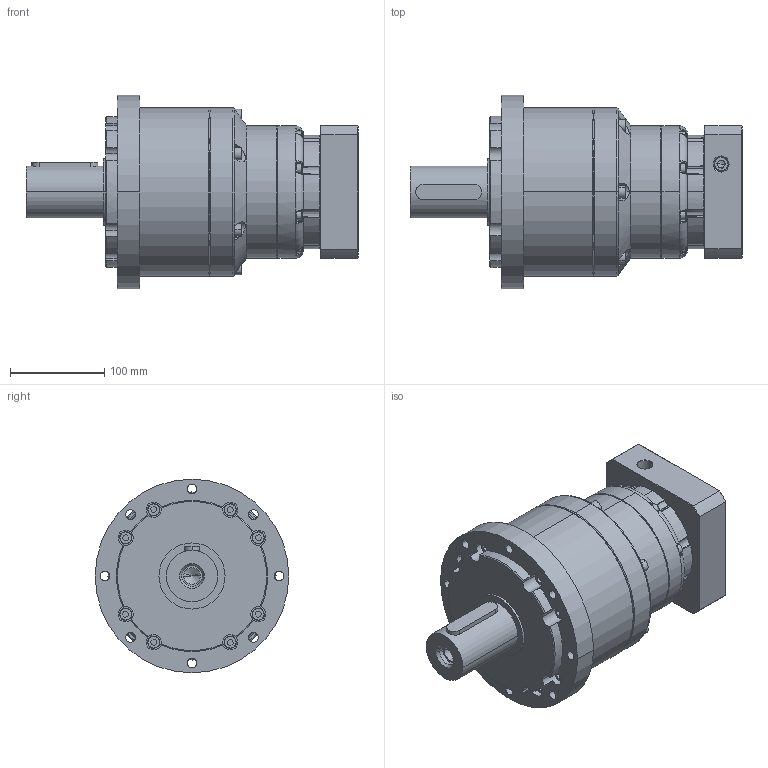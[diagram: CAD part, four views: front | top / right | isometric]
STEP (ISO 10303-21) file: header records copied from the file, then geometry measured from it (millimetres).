
FILE_DESCRIPTION (( 'STEP AP203' ), '1' );
FILE_NAME ('6C6XT.110140.142.STEP', '2019-06-12T00:57:14', ( '' ), ( '' ), 'SwSTEP 2.0', 'SolidWorks 2010', '' );
FILE_SCHEMA (( 'CONFIG_CONTROL_DESIGN' ));
Length unit declared in the file: millimetre
Products named in the file (12): PL142鎖緊環; 沉頭內六角M10xP1.5x25_CB10-10; 沉頭內六角M6xP1.0x30_內六角螺絲M6xP1.0x20L; 內六角螺絲M8x20_M8x20L; 內六角螺絲M8x45_M8x40L; 6C6XT.110140.142; PGC155-BP35(模型)_銑工; 2341F56411_銑工; PGH180T-EB(模型)_4.成品; PGCH205-B(模型)_4.成品; PGCH205-FP(模型)_9.成品; 雙圓鍵16x10x70L_Default
Assembly tree (38 placements, depth 2):
  6C6XT.110140.142
    內六角螺絲M8x45_M8x40L  x6
    沉頭內六角M10xP1.5x25_CB10-10
    沉頭內六角M6xP1.0x30_內六角螺絲M6xP1.0x20L  x16
    2341F56411_銑工
    PGCH205-B(模型)_4.成品
    PGCH205-FP(模型)_9.成品
    PL142鎖緊環
    PGH180T-EB(模型)_4.成品
    內六角螺絲M8x20_M8x20L  x8
    雙圓鍵16x10x70L_Default
    PGC155-BP35(模型)_銑工
Bounding box: 351.5 x 205 x 205 mm (x, y, z)
Volume: 5577677.3 mm3; surface area: 500161.7 mm2
Topology: 38 solids, 38 shells, 1479 faces, 3488 edges, 2078 vertices
Faces by surface type: plane 513, cylinder 417, cone 352, torus 101, bspline 80, sphere 16
Entity records: 37144 total; most frequent: CARTESIAN_POINT 15240, DIRECTION 4371, ORIENTED_EDGE 4052, EDGE_CURVE 2026, AXIS2_PLACEMENT_3D 1853, VERTEX_POINT 1247, CIRCLE 1052, EDGE_LOOP 975
